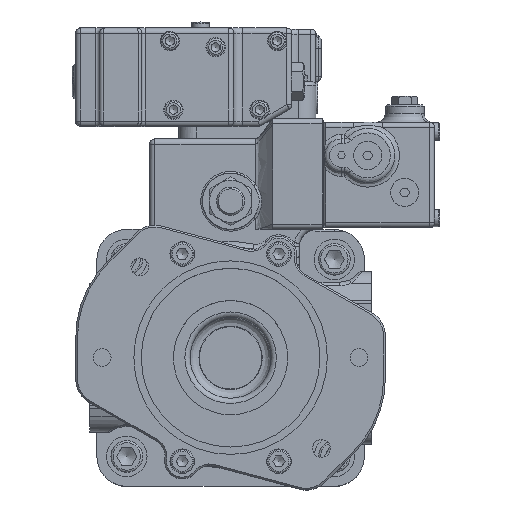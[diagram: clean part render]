
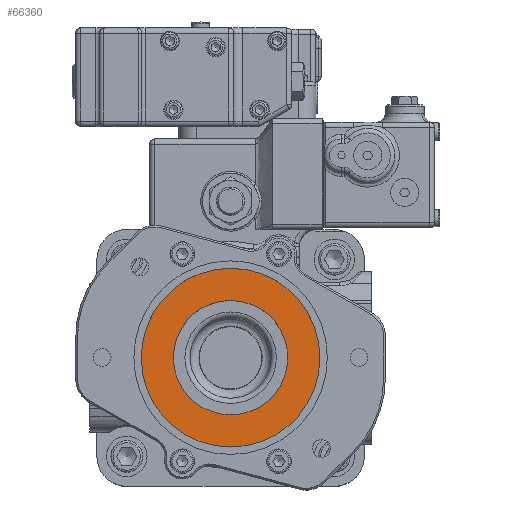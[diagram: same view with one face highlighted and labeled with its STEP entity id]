
A CAD part, top view. The second image highlights one B-rep face of the part: STEP entity #66360.
In plain terms, the highlighted planar face has unit normal (0, 0, 1).
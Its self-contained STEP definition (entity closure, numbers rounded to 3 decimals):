
#66278=CARTESIAN_POINT('',(32.5,0.,262.7));
#66279=VERTEX_POINT('',#66278);
#66280=CARTESIAN_POINT('',(0.,0.,262.7));
#66281=DIRECTION('',(0.0,0.0,1.0));
#66282=DIRECTION('',(1.0,0.0,0.0));
#66283=AXIS2_PLACEMENT_3D('',#66280,#66281,#66282);
#66284=CIRCLE('',#66283,32.5);
#66285=EDGE_CURVE('',#66279,#66279,#66284,.T.);
#66341=CARTESIAN_POINT('',(0.,0.,262.7));
#66342=DIRECTION('',(0.0,0.0,-1.0));
#66343=DIRECTION('',(-1.0,0.0,0.0));
#66344=AXIS2_PLACEMENT_3D('',#66341,#66342,#66343);
#66345=PLANE('',#66344);
#66346=CARTESIAN_POINT('',(50.8,0.,262.7));
#66347=VERTEX_POINT('',#66346);
#66348=CARTESIAN_POINT('',(0.,0.,262.7));
#66349=DIRECTION('',(0.0,0.0,1.0));
#66350=DIRECTION('',(-1.0,0.0,0.0));
#66351=AXIS2_PLACEMENT_3D('',#66348,#66349,#66350);
#66352=CIRCLE('',#66351,50.8);
#66353=EDGE_CURVE('',#66347,#66347,#66352,.T.);
#66354=ORIENTED_EDGE('',*,*,#66353,.T.);
#66355=EDGE_LOOP('',(#66354));
#66356=FACE_OUTER_BOUND('',#66355,.T.);
#66357=ORIENTED_EDGE('',*,*,#66285,.F.);
#66358=EDGE_LOOP('',(#66357));
#66359=FACE_BOUND('',#66358,.T.);
#66360=ADVANCED_FACE('',(#66356,#66359),#66345,.F.);
